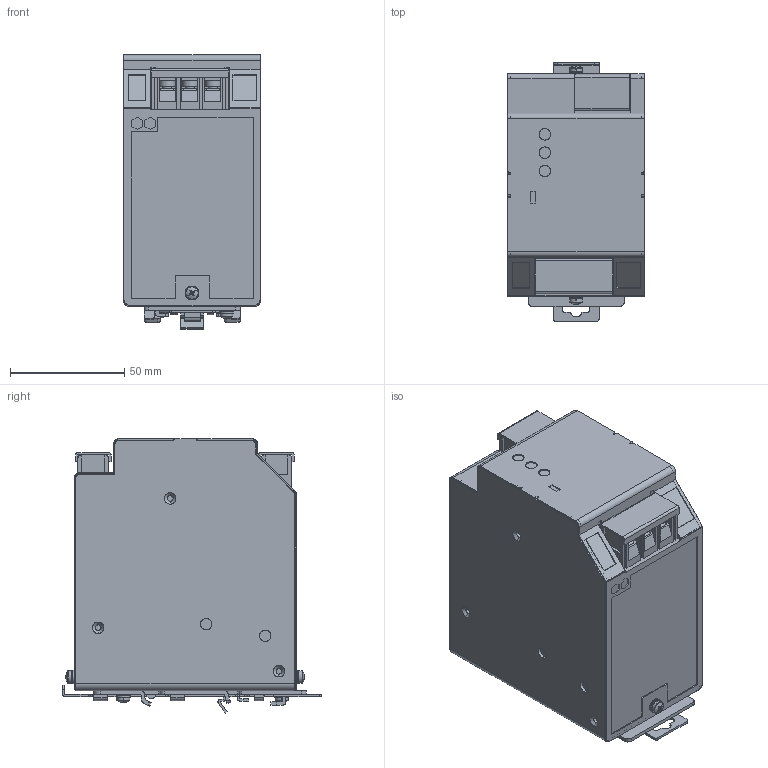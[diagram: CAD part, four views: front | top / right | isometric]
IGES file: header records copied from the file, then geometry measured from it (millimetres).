
Start section: SolidWorks IGES file using analytic representation for surfaces
Global section: file name: C:\DLP100-24-1_OUTLINE.IGS; native system: SolidWorks 2006 by SolidWorks Corporation; preprocessor: SolidWorks 2006 by SolidWorks Corporation; author: 3444matsunaga; date: 060920.162403; units: millimetre
Bounding box: 60 x 113 x 119.78 mm (x, y, z)
Surface area: 69585 mm2 (no closed solid volume)
Topology: 0 solids, 0 shells, 1282 faces, 13034 edges, 12978 vertices
Faces by surface type: bspline 868, revolution 414
